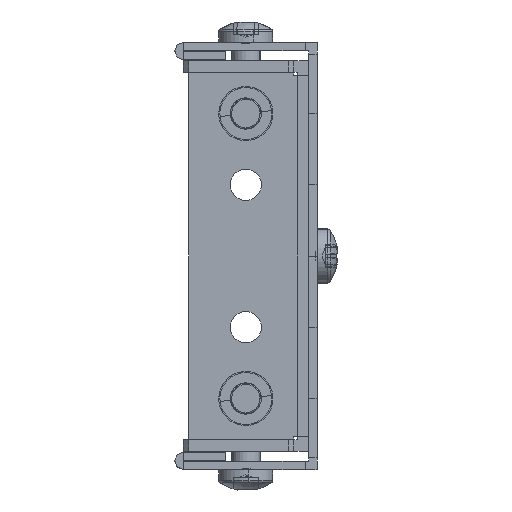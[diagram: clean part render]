
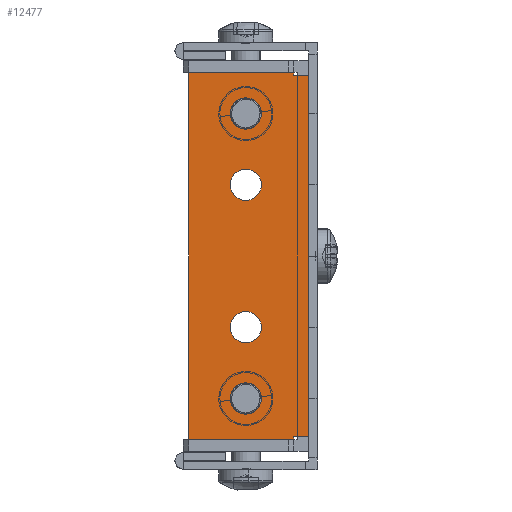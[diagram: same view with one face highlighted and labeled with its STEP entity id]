
A CAD part, front view. The second image highlights one B-rep face of the part: STEP entity #12477.
In plain terms, the highlighted planar face has unit normal (0, -1, 0).
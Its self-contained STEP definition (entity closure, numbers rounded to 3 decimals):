
#11740 = VERTEX_POINT('',#11741);
#11741 = CARTESIAN_POINT('',(-359.75,-950.,-12.5));
#11747 = EDGE_CURVE('',#11740,#11748,#11750,.T.);
#11748 = VERTEX_POINT('',#11749);
#11749 = CARTESIAN_POINT('',(-365.25,-950.,-12.5));
#11750 = CIRCLE('',#11751,2.75);
#11751 = AXIS2_PLACEMENT_3D('',#11752,#11753,#11754);
#11752 = CARTESIAN_POINT('',(-362.5,-950.,-12.5));
#11753 = DIRECTION('',(0.,1.,0.));
#11754 = DIRECTION('',(1.,0.,0.));
#11782 = VERTEX_POINT('',#11783);
#11783 = CARTESIAN_POINT('',(-359.75,-950.,-50.));
#11789 = EDGE_CURVE('',#11782,#11790,#11792,.T.);
#11790 = VERTEX_POINT('',#11791);
#11791 = CARTESIAN_POINT('',(-365.25,-950.,-50.));
#11792 = CIRCLE('',#11793,2.75);
#11793 = AXIS2_PLACEMENT_3D('',#11794,#11795,#11796);
#11794 = CARTESIAN_POINT('',(-362.5,-950.,-50.));
#11795 = DIRECTION('',(0.,1.,0.));
#11796 = DIRECTION('',(-1.,0.,0.));
#11824 = VERTEX_POINT('',#11825);
#11825 = CARTESIAN_POINT('',(-359.75,-950.,-62.5));
#11831 = EDGE_CURVE('',#11824,#11832,#11834,.T.);
#11832 = VERTEX_POINT('',#11833);
#11833 = CARTESIAN_POINT('',(-365.25,-950.,-62.5));
#11834 = CIRCLE('',#11835,2.75);
#11835 = AXIS2_PLACEMENT_3D('',#11836,#11837,#11838);
#11836 = CARTESIAN_POINT('',(-362.5,-950.,-62.5));
#11837 = DIRECTION('',(0.,1.,0.));
#11838 = DIRECTION('',(-1.,0.,0.));
#11866 = VERTEX_POINT('',#11867);
#11867 = CARTESIAN_POINT('',(-359.75,-950.,-25.));
#11873 = EDGE_CURVE('',#11866,#11874,#11876,.T.);
#11874 = VERTEX_POINT('',#11875);
#11875 = CARTESIAN_POINT('',(-365.25,-950.,-25.));
#11876 = CIRCLE('',#11877,2.75);
#11877 = AXIS2_PLACEMENT_3D('',#11878,#11879,#11880);
#11878 = CARTESIAN_POINT('',(-362.5,-950.,-25.));
#11879 = DIRECTION('',(0.,1.,0.));
#11880 = DIRECTION('',(1.,0.,0.));
#12136 = EDGE_CURVE('',#12137,#12139,#12141,.T.);
#12137 = VERTEX_POINT('',#12138);
#12138 = CARTESIAN_POINT('',(-354.1,-950.,-5.35));
#12139 = VERTEX_POINT('',#12140);
#12140 = CARTESIAN_POINT('',(-372.5,-950.,-5.35));
#12141 = LINE('',#12142,#12143);
#12142 = CARTESIAN_POINT('',(-354.1,-950.,-5.35));
#12143 = VECTOR('',#12144,1.);
#12144 = DIRECTION('',(-1.,0.,0.));
#12176 = EDGE_CURVE('',#12177,#12137,#12179,.T.);
#12177 = VERTEX_POINT('',#12178);
#12178 = CARTESIAN_POINT('',(-354.1,-950.,-5.85));
#12179 = LINE('',#12180,#12181);
#12180 = CARTESIAN_POINT('',(-354.1,-950.,-5.85));
#12181 = VECTOR('',#12182,1.);
#12182 = DIRECTION('',(0.,0.,1.));
#12260 = EDGE_CURVE('',#12261,#12263,#12265,.T.);
#12261 = VERTEX_POINT('',#12262);
#12262 = CARTESIAN_POINT('',(-354.1,-950.,-69.65));
#12263 = VERTEX_POINT('',#12264);
#12264 = CARTESIAN_POINT('',(-372.5,-950.,-69.65));
#12265 = LINE('',#12266,#12267);
#12266 = CARTESIAN_POINT('',(-354.1,-950.,-69.65));
#12267 = VECTOR('',#12268,1.);
#12268 = DIRECTION('',(-1.,0.,0.));
#12300 = EDGE_CURVE('',#12301,#12261,#12303,.T.);
#12301 = VERTEX_POINT('',#12302);
#12302 = CARTESIAN_POINT('',(-354.1,-950.,-69.15));
#12303 = LINE('',#12304,#12305);
#12304 = CARTESIAN_POINT('',(-354.1,-950.,-69.15));
#12305 = VECTOR('',#12306,1.);
#12306 = DIRECTION('',(0.,0.,-1.));
#12391 = EDGE_CURVE('',#12263,#12139,#12392,.T.);
#12392 = LINE('',#12393,#12394);
#12393 = CARTESIAN_POINT('',(-372.5,-950.,-5.85));
#12394 = VECTOR('',#12395,1.);
#12395 = DIRECTION('',(0.,0.,1.));
#12477 = ADVANCED_FACE('',(#12478,#12488,#12498,#12508,#12518),#12547,
  .T.);
#12478 = FACE_BOUND('',#12479,.T.);
#12479 = EDGE_LOOP('',(#12480,#12481));
#12480 = ORIENTED_EDGE('',*,*,#11873,.T.);
#12481 = ORIENTED_EDGE('',*,*,#12482,.T.);
#12482 = EDGE_CURVE('',#11874,#11866,#12483,.T.);
#12483 = CIRCLE('',#12484,2.75);
#12484 = AXIS2_PLACEMENT_3D('',#12485,#12486,#12487);
#12485 = CARTESIAN_POINT('',(-362.5,-950.,-25.));
#12486 = DIRECTION('',(0.,1.,0.));
#12487 = DIRECTION('',(1.,0.,0.));
#12488 = FACE_BOUND('',#12489,.T.);
#12489 = EDGE_LOOP('',(#12490,#12491));
#12490 = ORIENTED_EDGE('',*,*,#11831,.T.);
#12491 = ORIENTED_EDGE('',*,*,#12492,.T.);
#12492 = EDGE_CURVE('',#11832,#11824,#12493,.T.);
#12493 = CIRCLE('',#12494,2.75);
#12494 = AXIS2_PLACEMENT_3D('',#12495,#12496,#12497);
#12495 = CARTESIAN_POINT('',(-362.5,-950.,-62.5));
#12496 = DIRECTION('',(0.,1.,0.));
#12497 = DIRECTION('',(-1.,0.,0.));
#12498 = FACE_BOUND('',#12499,.T.);
#12499 = EDGE_LOOP('',(#12500,#12501));
#12500 = ORIENTED_EDGE('',*,*,#11789,.T.);
#12501 = ORIENTED_EDGE('',*,*,#12502,.T.);
#12502 = EDGE_CURVE('',#11790,#11782,#12503,.T.);
#12503 = CIRCLE('',#12504,2.75);
#12504 = AXIS2_PLACEMENT_3D('',#12505,#12506,#12507);
#12505 = CARTESIAN_POINT('',(-362.5,-950.,-50.));
#12506 = DIRECTION('',(0.,1.,0.));
#12507 = DIRECTION('',(-1.,0.,0.));
#12508 = FACE_BOUND('',#12509,.T.);
#12509 = EDGE_LOOP('',(#12510,#12511));
#12510 = ORIENTED_EDGE('',*,*,#11747,.T.);
#12511 = ORIENTED_EDGE('',*,*,#12512,.T.);
#12512 = EDGE_CURVE('',#11748,#11740,#12513,.T.);
#12513 = CIRCLE('',#12514,2.75);
#12514 = AXIS2_PLACEMENT_3D('',#12515,#12516,#12517);
#12515 = CARTESIAN_POINT('',(-362.5,-950.,-12.5));
#12516 = DIRECTION('',(0.,1.,0.));
#12517 = DIRECTION('',(1.,0.,0.));
#12518 = FACE_BOUND('',#12519,.T.);
#12519 = EDGE_LOOP('',(#12520,#12521,#12522,#12523,#12531,#12539,#12545,
    #12546));
#12520 = ORIENTED_EDGE('',*,*,#12391,.F.);
#12521 = ORIENTED_EDGE('',*,*,#12260,.F.);
#12522 = ORIENTED_EDGE('',*,*,#12300,.F.);
#12523 = ORIENTED_EDGE('',*,*,#12524,.T.);
#12524 = EDGE_CURVE('',#12301,#12525,#12527,.T.);
#12525 = VERTEX_POINT('',#12526);
#12526 = CARTESIAN_POINT('',(-351.5,-950.,-69.15));
#12527 = LINE('',#12528,#12529);
#12528 = CARTESIAN_POINT('',(-351.5,-950.,-69.15));
#12529 = VECTOR('',#12530,1.);
#12530 = DIRECTION('',(1.,0.,0.));
#12531 = ORIENTED_EDGE('',*,*,#12532,.T.);
#12532 = EDGE_CURVE('',#12525,#12533,#12535,.T.);
#12533 = VERTEX_POINT('',#12534);
#12534 = CARTESIAN_POINT('',(-351.5,-950.,-5.85));
#12535 = LINE('',#12536,#12537);
#12536 = CARTESIAN_POINT('',(-351.5,-950.,-37.5));
#12537 = VECTOR('',#12538,1.);
#12538 = DIRECTION('',(0.,0.,1.));
#12539 = ORIENTED_EDGE('',*,*,#12540,.F.);
#12540 = EDGE_CURVE('',#12177,#12533,#12541,.T.);
#12541 = LINE('',#12542,#12543);
#12542 = CARTESIAN_POINT('',(-351.5,-950.,-5.85));
#12543 = VECTOR('',#12544,1.);
#12544 = DIRECTION('',(1.,0.,0.));
#12545 = ORIENTED_EDGE('',*,*,#12176,.T.);
#12546 = ORIENTED_EDGE('',*,*,#12136,.T.);
#12547 = PLANE('',#12548);
#12548 = AXIS2_PLACEMENT_3D('',#12549,#12550,#12551);
#12549 = CARTESIAN_POINT('',(-351.5,-950.,-37.5));
#12550 = DIRECTION('',(0.,-1.,0.));
#12551 = DIRECTION('',(0.,0.,1.));
